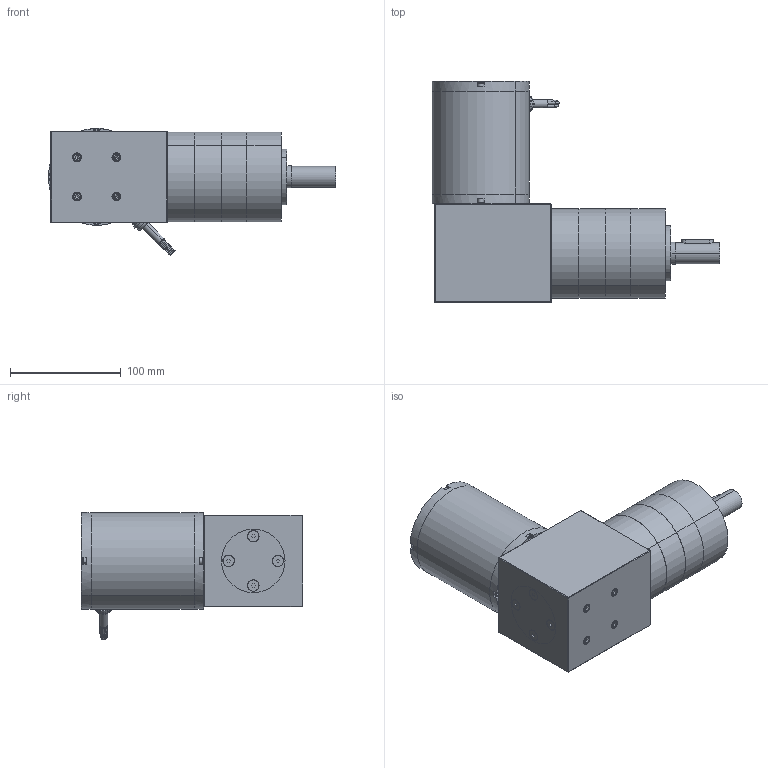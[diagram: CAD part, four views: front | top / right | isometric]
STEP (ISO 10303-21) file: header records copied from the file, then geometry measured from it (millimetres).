
FILE_DESCRIPTION (( 'STEP AP203' ), '1' );
FILE_NAME ('bl87500gra3.step', '2018-12-07T19:11:45', ( '' ), ( '' ), 'SwSTEP 2.0', 'SolidWorks 2017', '' );
FILE_SCHEMA (( 'CONFIG_CONTROL_DESIGN' ));
Length unit declared in the file: inch
Products named in the file (1): bl87500gra3
Bounding box: 259.03 x 199.39 x 114.6 mm (x, y, z)
Volume: 1981703.2 mm3; surface area: 209492.9 mm2
Topology: 30 solids, 30 shells, 1216 faces, 3046 edges, 1958 vertices
Faces by surface type: cylinder 727, plane 350, cone 121, torus 10, bspline 8
Entity records: 55368 total; most frequent: CARTESIAN_POINT 28761, ORIENTED_EDGE 6044, DIRECTION 5077, EDGE_CURVE 3022, VERTEX_POINT 1958, AXIS2_PLACEMENT_3D 1854, VECTOR 1369, LINE 1369
